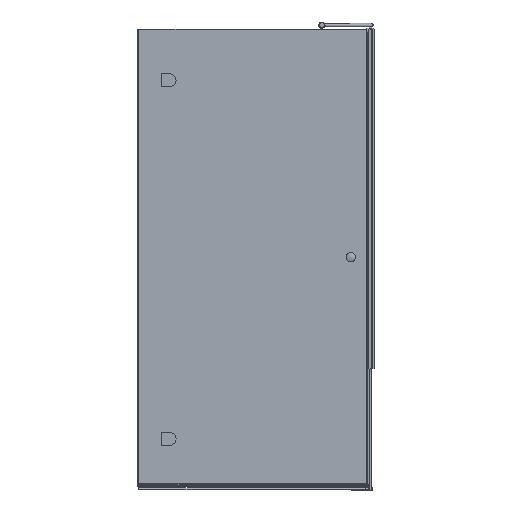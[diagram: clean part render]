
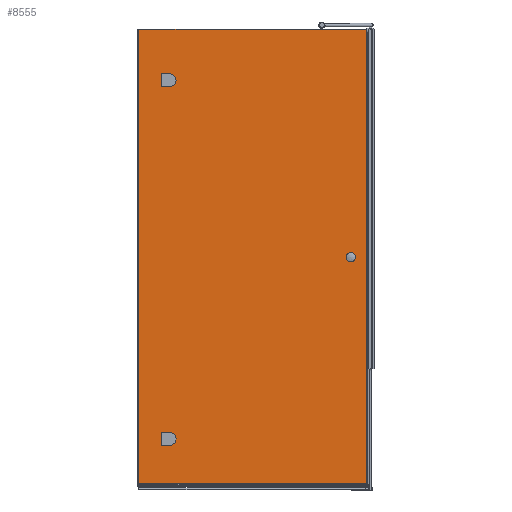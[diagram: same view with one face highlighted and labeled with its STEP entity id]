
A CAD part, left-side view. The second image highlights one B-rep face of the part: STEP entity #8555.
In plain terms, the highlighted planar face has unit normal (-1, -0.002, 0).
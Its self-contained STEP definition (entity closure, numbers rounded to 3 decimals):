
#115=LINE($,#12131,#998);
#119=LINE($,#12139,#1002);
#123=LINE($,#12150,#1006);
#165=LINE($,#12259,#1048);
#169=LINE($,#12267,#1052);
#173=LINE($,#12278,#1056);
#285=LINE($,#12561,#1168);
#674=LINE($,#13880,#1557);
#692=LINE($,#13941,#1575);
#711=LINE($,#13981,#1594);
#998=VECTOR($,#9629,52.);
#1002=VECTOR($,#9635,23.);
#1006=VECTOR($,#9647,23.);
#1048=VECTOR($,#9753,52.);
#1052=VECTOR($,#9759,23.);
#1056=VECTOR($,#9771,23.);
#1168=VECTOR($,#10041,1875.4);
#1557=VECTOR($,#11060,1875.4);
#1575=VECTOR($,#11120,940.2);
#1594=VECTOR($,#11181,940.2);
#1890=FACE_BOUND($,#2843,.T.);
#1891=FACE_BOUND($,#2844,.T.);
#1892=FACE_BOUND($,#2845,.T.);
#2843=EDGE_LOOP($,(#6718,#6719,#6720,#6721));
#2844=EDGE_LOOP($,(#6722,#6723,#6724,#6725));
#2845=EDGE_LOOP($,(#6726,#6727,#6728,#6729));
#3017=CIRCLE($,#8772,26.);
#3029=CIRCLE($,#8809,26.);
#3293=VERTEX_POINT($,#12129);
#3294=VERTEX_POINT($,#12130);
#3297=VERTEX_POINT($,#12138);
#3299=VERTEX_POINT($,#12144);
#3334=VERTEX_POINT($,#12257);
#3335=VERTEX_POINT($,#12258);
#3338=VERTEX_POINT($,#12266);
#3340=VERTEX_POINT($,#12272);
#3432=VERTEX_POINT($,#12559);
#3433=VERTEX_POINT($,#12560);
#3793=VERTEX_POINT($,#13876);
#3794=VERTEX_POINT($,#13878);
#4055=EDGE_CURVE($,#3293,#3294,#115,.T.);
#4059=EDGE_CURVE($,#3294,#3297,#119,.T.);
#4062=EDGE_CURVE($,#3297,#3299,#3017,.T.);
#4065=EDGE_CURVE($,#3299,#3293,#123,.T.);
#4117=EDGE_CURVE($,#3334,#3335,#165,.T.);
#4121=EDGE_CURVE($,#3335,#3338,#169,.T.);
#4124=EDGE_CURVE($,#3338,#3340,#3029,.T.);
#4127=EDGE_CURVE($,#3340,#3334,#173,.T.);
#4265=EDGE_CURVE($,#3432,#3433,#285,.T.);
#4809=EDGE_CURVE($,#3794,#3793,#674,.T.);
#4834=EDGE_CURVE($,#3793,#3433,#692,.T.);
#4853=EDGE_CURVE($,#3432,#3794,#711,.T.);
#6718=ORIENTED_EDGE($,*,*,#4055,.T.);
#6719=ORIENTED_EDGE($,*,*,#4059,.T.);
#6720=ORIENTED_EDGE($,*,*,#4062,.T.);
#6721=ORIENTED_EDGE($,*,*,#4065,.T.);
#6722=ORIENTED_EDGE($,*,*,#4117,.T.);
#6723=ORIENTED_EDGE($,*,*,#4121,.T.);
#6724=ORIENTED_EDGE($,*,*,#4124,.T.);
#6725=ORIENTED_EDGE($,*,*,#4127,.T.);
#6726=ORIENTED_EDGE($,*,*,#4265,.T.);
#6727=ORIENTED_EDGE($,*,*,#4834,.F.);
#6728=ORIENTED_EDGE($,*,*,#4809,.F.);
#6729=ORIENTED_EDGE($,*,*,#4853,.F.);
#7634=PLANE($,#9247);
#8555=ADVANCED_FACE($,(#1890,#1891,#1892),#7634,.T.);
#8772=AXIS2_PLACEMENT_3D($,#12145,#9640,#9641);
#8809=AXIS2_PLACEMENT_3D($,#12273,#9764,#9765);
#9247=AXIS2_PLACEMENT_3D($,#13980,#11179,#11180);
#9629=DIRECTION($,(0.,0.,1.));
#9635=DIRECTION($,(0.002,-1.,0.));
#9640=DIRECTION('center_axis',(1.,0.002,0.));
#9641=DIRECTION('ref_axis',(0.,0.,
-1.));
#9647=DIRECTION($,(-0.002,1.,0.));
#9753=DIRECTION($,(0.,0.,1.));
#9759=DIRECTION($,(0.002,-1.,0.));
#9764=DIRECTION('center_axis',(1.,0.002,0.));
#9765=DIRECTION('ref_axis',(0.,0.,
-1.));
#9771=DIRECTION($,(-0.002,1.,0.));
#10041=DIRECTION($,(0.,0.,-1.));
#11060=DIRECTION($,(0.,0.,-1.));
#11120=DIRECTION($,(-0.002,1.,0.));
#11179=DIRECTION('center_axis',(-1.,-0.002,
0.));
#11180=DIRECTION('ref_axis',(0.002,-1.,0.));
#11181=DIRECTION($,(0.002,-1.,0.));
#12129=CARTESIAN_POINT('',(1250.063,802.42,1149.944));
#12130=CARTESIAN_POINT('',(1250.063,802.42,1201.944));
#12131=CARTESIAN_POINT($,(1250.063,802.42,353.944));
#12138=CARTESIAN_POINT('',(1250.103,779.42,1201.944));
#12139=CARTESIAN_POINT($,(1249.988,844.92,1201.944));
#12144=CARTESIAN_POINT('',(1250.103,779.42,1149.944));
#12145=CARTESIAN_POINT('Origin',(1250.103,779.42,1175.944));
#12150=CARTESIAN_POINT($,(1249.968,856.42,1149.944));
#12257=CARTESIAN_POINT('',(1250.063,802.42,-330.056));
#12258=CARTESIAN_POINT('',(1250.063,802.42,-278.056));
#12259=CARTESIAN_POINT($,(1250.063,802.42,-386.056));
#12266=CARTESIAN_POINT('',(1250.103,779.42,-278.056));
#12267=CARTESIAN_POINT($,(1249.988,844.92,-278.056));
#12272=CARTESIAN_POINT('',(1250.103,779.42,-330.056));
#12273=CARTESIAN_POINT('Origin',(1250.103,779.42,-304.056));
#12278=CARTESIAN_POINT($,(1249.968,856.42,-330.056));
#12559=CARTESIAN_POINT('',(1249.882,905.72,1385.944));
#12560=CARTESIAN_POINT('',(1249.882,905.72,-489.456));
#12561=CARTESIAN_POINT($,(1249.882,905.72,-494.056));
#13876=CARTESIAN_POINT('',(1251.523,-34.478,-489.456));
#13878=CARTESIAN_POINT('',(1251.523,-34.478,1385.944));
#13880=CARTESIAN_POINT($,(1251.523,-34.478,1385.944));
#13941=CARTESIAN_POINT($,(1251.549,-49.078,-489.456));
#13980=CARTESIAN_POINT('Origin',(1249.874,910.42,-494.056));
#13981=CARTESIAN_POINT($,(1249.874,910.42,1385.944));
